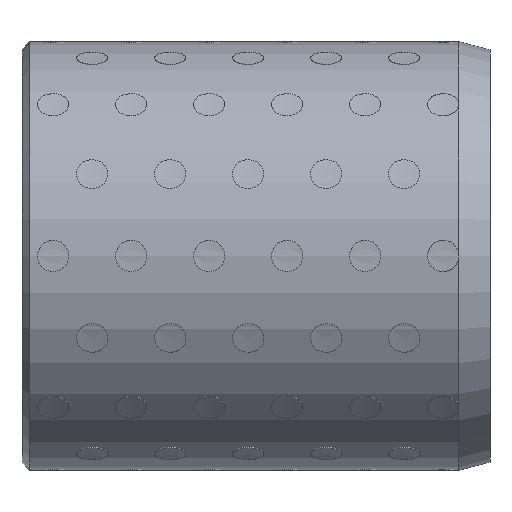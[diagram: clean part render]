
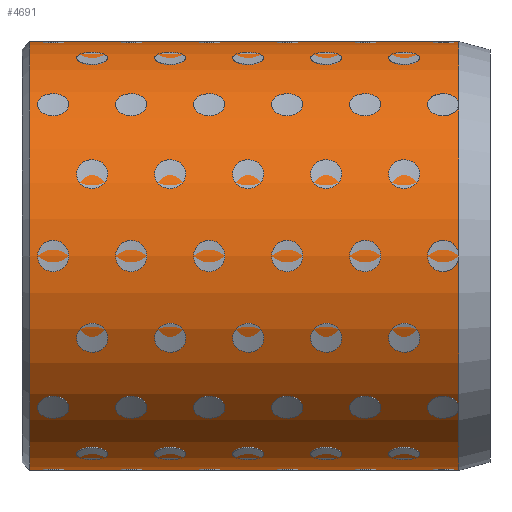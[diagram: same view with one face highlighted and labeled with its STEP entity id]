
A CAD part, left-side view. The second image highlights one B-rep face of the part: STEP entity #4691.
In plain terms, the highlighted cylindrical face has radius 27.5 mm (diameter 55 mm), a full revolution.
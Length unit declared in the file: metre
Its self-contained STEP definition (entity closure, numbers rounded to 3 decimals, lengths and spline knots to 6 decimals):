
#4691 = ADVANCED_FACE( '', ( #5001, #5002 ), #5003, .T. );
#5001 = FACE_OUTER_BOUND( '', #5697, .T. );
#5002 = FACE_OUTER_BOUND( '', #5698, .T. );
#5003 = CYLINDRICAL_SURFACE( '', #5699, 0.0275 );
#5697 = EDGE_LOOP( '', ( #6405 ) );
#5698 = EDGE_LOOP( '', ( #6406 ) );
#5699 = AXIS2_PLACEMENT_3D( '', #6407, #6408, #6409 );
#6405 = ORIENTED_EDGE( '', *, *, #7670, .T. );
#6406 = ORIENTED_EDGE( '', *, *, #7669, .F. );
#6407 = CARTESIAN_POINT( '', ( 0., 0., 0. ) );
#6408 = DIRECTION( '', ( 0., 1., 0. ) );
#6409 = DIRECTION( '', ( 0., 0., -1. ) );
#7669 = EDGE_CURVE( '', #7875, #7875, #7876, .T. );
#7670 = EDGE_CURVE( '', #7877, #7877, #7878, .T. );
#7875 = VERTEX_POINT( '', #8275 );
#7876 = CIRCLE( '', #8276, 0.0275 );
#7877 = VERTEX_POINT( '', #8277 );
#7878 = CIRCLE( '', #8278, 0.0275 );
#8275 = CARTESIAN_POINT( '', ( 0., 0.004, -0.0275 ) );
#8276 = AXIS2_PLACEMENT_3D( '', #19049, #19050, #19051 );
#8277 = CARTESIAN_POINT( '', ( 0., 0.059, -0.0275 ) );
#8278 = AXIS2_PLACEMENT_3D( '', #19052, #19053, #19054 );
#19049 = CARTESIAN_POINT( '', ( 0., 0.004, 0. ) );
#19050 = DIRECTION( '', ( 0., -1., 0. ) );
#19051 = DIRECTION( '', ( 0., 0., -1. ) );
#19052 = CARTESIAN_POINT( '', ( 0., 0.059, 0. ) );
#19053 = DIRECTION( '', ( 0., -1., 0. ) );
#19054 = DIRECTION( '', ( 0., 0., -1. ) );
